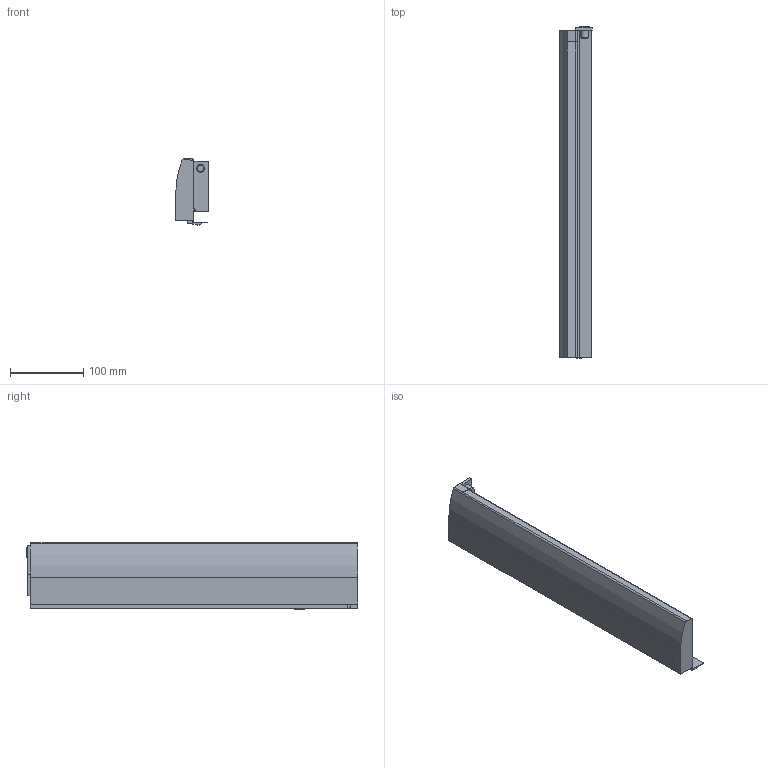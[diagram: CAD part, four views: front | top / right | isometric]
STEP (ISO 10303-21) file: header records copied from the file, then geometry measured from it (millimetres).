
FILE_DESCRIPTION (( 'STEP AP214' ), '1' );
FILE_NAME ('_IMOS_NOVA-Pro_Dekor-H90_DL_NL450_LI.step', '2010-07-06T09:14:40', ( 'grass' ), ( '' ), 'SwSTEP 2.0', 'SolidWorks 2009', '' );
FILE_SCHEMA (( 'AUTOMOTIVE_DESIGN' ));
Length unit declared in the file: millimetre
Products named in the file (1): _IMOS_NOVA-Pro_Dekor-H90_DL_NL450_LI
Bounding box: 44.3 x 452.7 x 90.49 mm (x, y, z)
Volume: 492669.1 mm3; surface area: 155600.1 mm2
Topology: 1 solids, 1 shells, 69 faces, 182 edges, 120 vertices
Faces by surface type: plane 47, cylinder 17, cone 4, bspline 1
Entity records: 2168 total; most frequent: CARTESIAN_POINT 393, ORIENTED_EDGE 364, DIRECTION 357, EDGE_CURVE 182, LINE 141, VECTOR 141, VERTEX_POINT 120, AXIS2_PLACEMENT_3D 108
